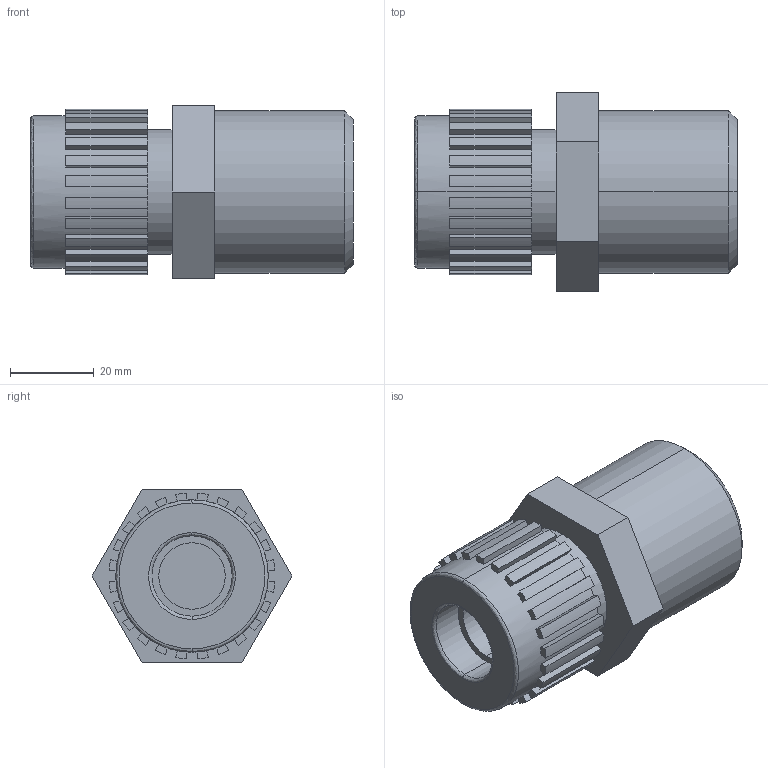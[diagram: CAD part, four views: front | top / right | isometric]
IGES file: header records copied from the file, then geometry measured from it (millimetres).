
Start section: SolidWorks IGES file using analytic representation for surfaces
Global section: file name: S:\Product Visuals\Pumps to be Defeatured\140 fittings\FITTING ASSEMBLIES\DEFEATURED\12-s-300.IGS; native system: SolidWorks 2012; preprocessor: SolidWorks 2012; author: rachel.dressel; date: 121203.112258; units: inch
Bounding box: 77.02 x 47.66 x 41.27 mm (x, y, z)
Volume: 82526.7 mm3; surface area: 16041 mm2
Topology: 1 solids, 1 shells, 125 faces, 348 edges, 230 vertices
Faces by surface type: plane 85, revolution 40
